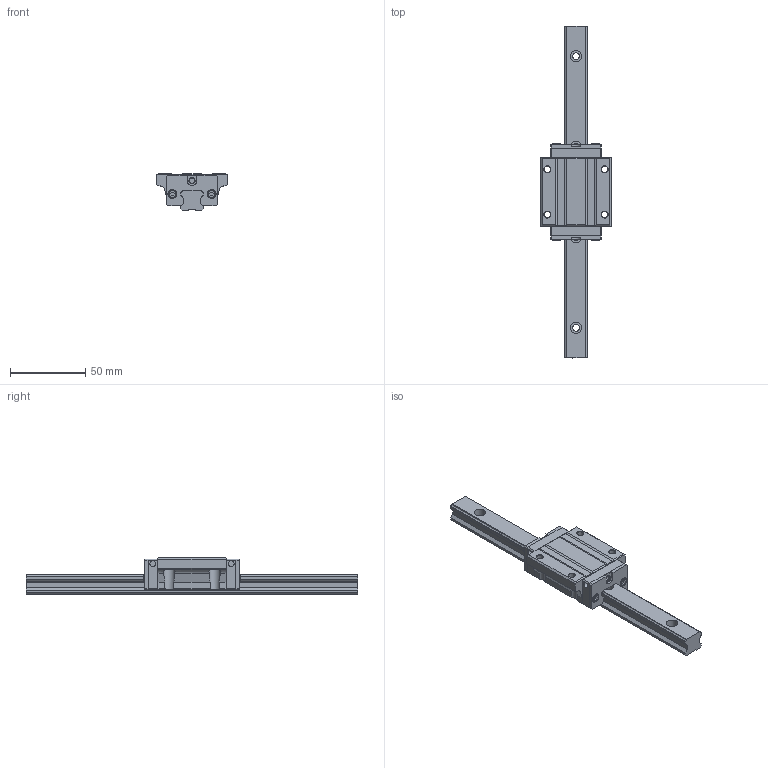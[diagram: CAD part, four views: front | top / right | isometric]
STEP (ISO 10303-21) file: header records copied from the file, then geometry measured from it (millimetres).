
FILE_DESCRIPTION( ( 'Unknown' ), '1' );
FILE_NAME( 'C:/Documents and Settings/c/官帕 拳搁/15/SBI 15 FL.stp', 'Unknown', ( 'Unknown' ), ( 'Unknown' ), 'XStep 1.0', 'Unknown', ' ' );
FILE_SCHEMA( ( 'automotive_design' ) );
Length unit declared in the file: millimetre
Products named in the file (7): Assem1; RAIL; SBI-15FL BLOCK
Bounding box: 47 x 220 x 24 mm (x, y, z)
Volume: 142372.6 mm3; surface area: 59357.7 mm2
Topology: 12 solids, 12 shells, 712 faces, 1926 edges, 1288 vertices
Faces by surface type: plane 546, cylinder 124, extrusion 26, cone 8, torus 8
Full cylindrical faces by diameter (mm): 3.4 x8, 3.5 x4, 3.818 x8, 4.1 x4, 4.134 x8, 4.5 x8, 5.5 x8, 6 x8, 7.5 x8
Entity records: 11646 total; most frequent: CARTESIAN_POINT 2463, ORIENTED_EDGE 1810, DIRECTION 1728, EDGE_CURVE 905, VECTOR 724, LINE 711, VERTEX_POINT 626, AXIS2_PLACEMENT_3D 502
